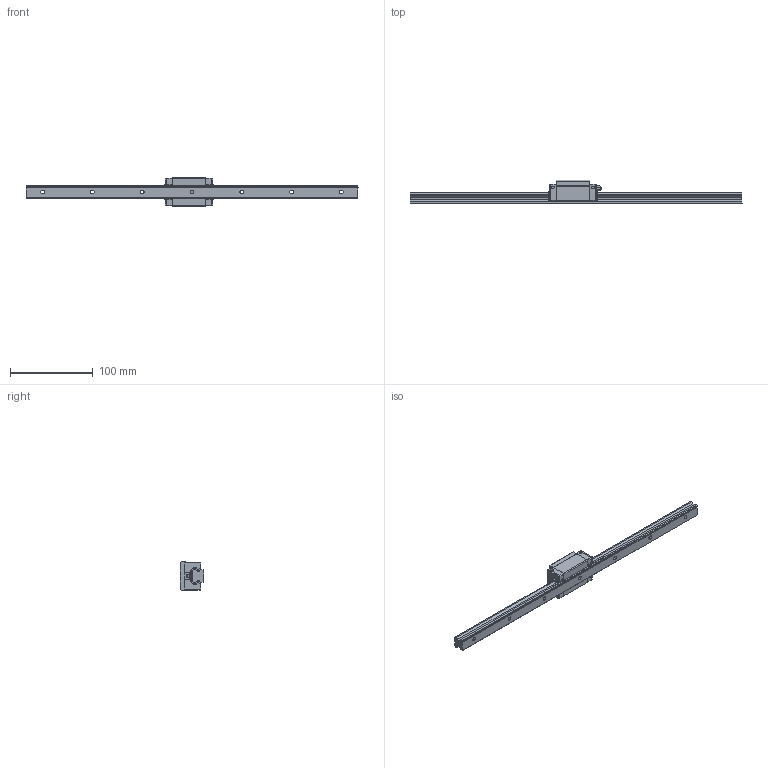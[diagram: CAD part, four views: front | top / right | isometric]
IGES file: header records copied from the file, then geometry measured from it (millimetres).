
Start section: SolidWorks IGES file using analytic representation for surfaces
Global section: file name: C:\Users\tsuch\OneDrive\デスクトップ\EG15関連修正(3D)\EGH15.IGS; native system: SolidWorks 2019; preprocessor: SolidWorks 2019; author: tsuch; date: 210706.144129; units: millimetre
Bounding box: 400 x 28 x 34 mm (x, y, z)
Surface area: 39177.7 mm2 (no closed solid volume)
Topology: 0 solids, 0 shells, 480 faces, 4932 edges, 4922 vertices
Faces by surface type: bspline 315, revolution 165
